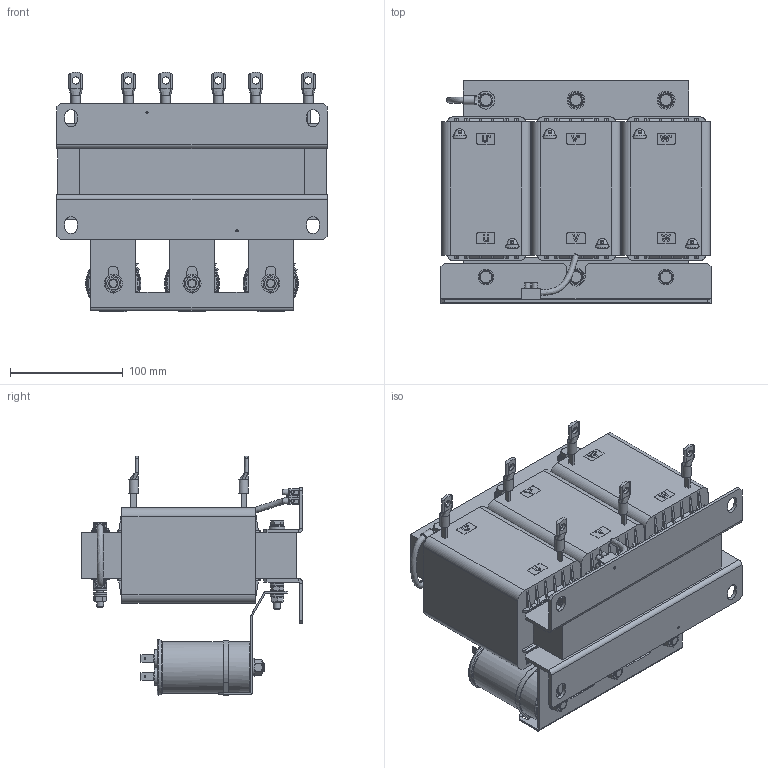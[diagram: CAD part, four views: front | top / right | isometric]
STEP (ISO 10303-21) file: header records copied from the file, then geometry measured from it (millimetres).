
FILE_DESCRIPTION(/* description */ (''),/* implementation_level */ '2;1');
FILE_NAME(/* name */ 'C:\Users\Erika.Jenzer\OneDrive - Schaffner EMV AG\BELLA\STEP FILES BELLA\FN\FN5420-45-92-E0XXT.stp',/* time_stamp */ '2021-07-12T08:41:50+02:00',/* author */ ('erika.jenzer'),/* organization */ (''),/* preprocessor_version */ 'ST-DEVELOPER v18.1',/* originating_system */ 'Autodesk Inventor 2020',/* authorisation */ '');
FILE_SCHEMA (('AUTOMOTIVE_DESIGN { 1 0 10303 214 3 1 1 }'));
Products named in the file (1): FN5420-45-92-E0XXT
Bounding box: 240 x 197.3 x 213.15 mm (x, y, z)
Volume: 3518309 mm3; surface area: 371863.4 mm2
Topology: 14 solids, 24 shells, 3356 faces, 9077 edges, 5999 vertices
Faces by surface type: plane 2677, cylinder 450, cone 127, bspline 67, torus 34, sphere 1
Full cylindrical faces by diameter (mm): 0.01 x2, 1.6 x12, 2.013 x2, 2.5 x1, 2.8 x5, 3.4 x4, 5.19 x2, 5.459 x1, 5.8 x2, 6 x21, 6.1 x7, 6.4 x22, 6.5 x2, 6.6 x10, 7.6 x5, 8 x7, 8.2 x2, 8.4 x3, 8.5 x10, 8.7 x3, 8.9 x3, 12 x14, 12.2 x6, 13 x1, 14 x5, 16 x7, 46 x3, 49 x3
Entity records: 108594 total; most frequent: CARTESIAN_POINT 22555, ORIENTED_EDGE 18158, DIRECTION 16399, EDGE_CURVE 9079, LINE 6849, VECTOR 6849, VERTEX_POINT 5999, AXIS2_PLACEMENT_3D 4775
